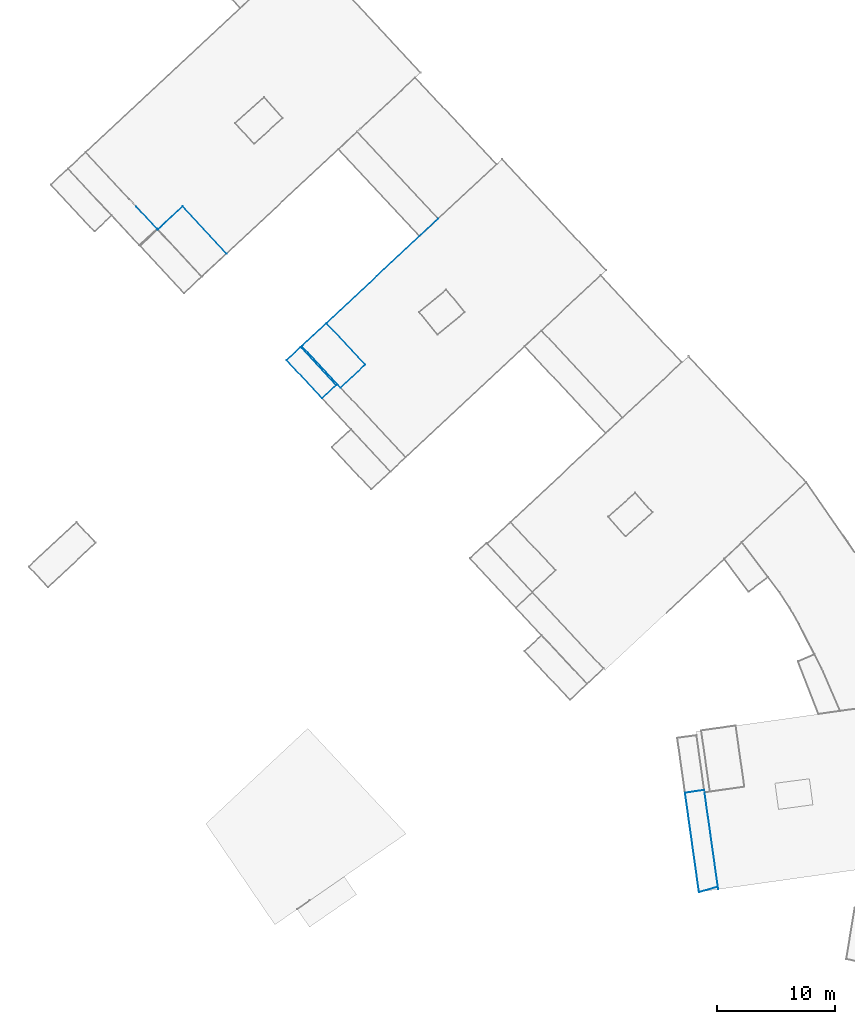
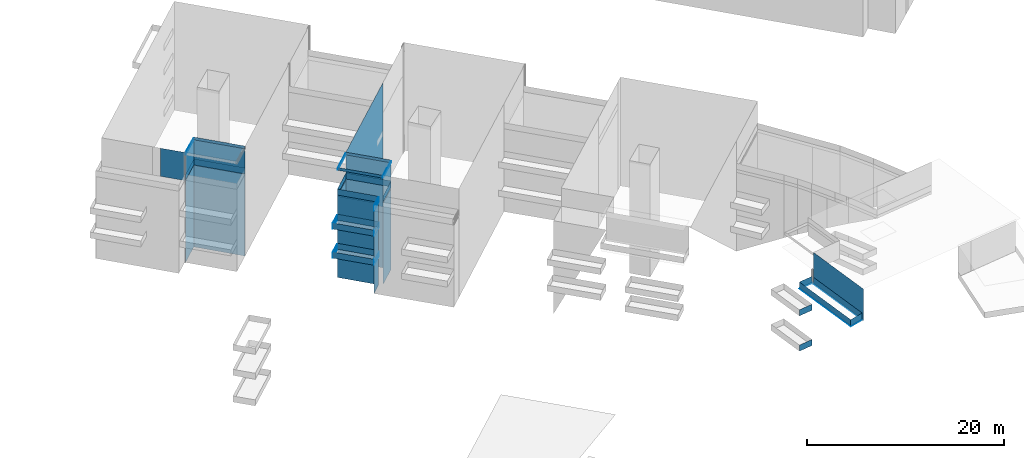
# Not in any storey, part 16 of 136: 75 walls.
"""IFC2X3 building model written with IfcOpenShell, lengths in metres."""

from ifc_helpers import new_model, entity, si_unit, converted_unit, origin, place, context, subcontext, project, spatial, face_set, surface_model, element, save


model = new_model("IFC2X3")

# Units and contexts
model_context = context("Model", 3, precision=1e-05, world=origin())
body_context = subcontext(model_context, "Body", "Model", "MODEL_VIEW")
ifc_project = project(units=[converted_unit("PLANEANGLEUNIT", "DEGREE", entity("IfcRatioMeasure", 0.0174532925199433), si_unit("PLANEANGLEUNIT", "RADIAN"), dimensions=[0, 0, 0, 0, 0, 0, 0]), si_unit("AREAUNIT", "SQUARE_METRE"), si_unit("LENGTHUNIT", "METRE")], contexts=[model_context])

# Site, building
site_placement = place(None, origin())
site = spatial("IfcSite", under=ifc_project, at=site_placement, Name="_site", CompositionType="ELEMENT")
building_1_placement = place(site_placement, origin())
building_1 = spatial("IfcBuilding", under=site, at=building_1_placement, Name="_building", CompositionType="ELEMENT")

# Walls
wall_1_placement = place(building_1_placement, origin())
element("IfcWall", 1, at=wall_1_placement, inside=building_1, Name="Wall", context=body_context, shape_type="SurfaceModel", body=[
    surface_model("IfcFaceBasedSurfaceModel", [(158.5, -56.03, 40.37), (156.88, -56.26, 40.37), (156.88, -56.26, 41.12), (158.5, -56.03, 41.12)], [face_set([[[0, 1, 2, 3]]])]),
])
wall_2_placement = place(building_1_placement, origin())
element("IfcWall", 2, at=wall_2_placement, inside=building_1, Name="Wall", context=body_context, shape_type="SurfaceModel", body=[
    surface_model("IfcFaceBasedSurfaceModel", [(158.5, -56.03, 44.74), (156.88, -56.26, 44.74), (156.88, -56.26, 45.49), (158.5, -56.03, 45.49)], [face_set([[[0, 1, 2, 3]]])]),
])
wall_3_placement = place(building_1_placement, origin())
element("IfcWall", 3, at=wall_3_placement, inside=building_1, Name="Wall", context=body_context, shape_type="SurfaceModel", body=[
    surface_model("IfcFaceBasedSurfaceModel", [(124.45, -18.64, 48.26), (126.62, -16.62, 48.26), (126.62, -16.62, 38.067), (124.45, -18.64, 38.059)], [face_set([[[0, 1, 2, 3]]])]),
])
wall_4_placement = place(building_1_placement, origin())
element("IfcWall", 4, at=wall_4_placement, inside=building_1, Name="Wall", context=body_context, shape_type="SurfaceModel", body=[
    surface_model("IfcFaceBasedSurfaceModel", [(127.44, -21.86, 48.26), (124.45, -18.64, 48.26), (124.45, -18.64, 38.059), (127.44, -21.86, 38.046)], [face_set([[[0, 1, 2, 3]]])]),
])
wall_5_placement = place(building_1_placement, origin())
element("IfcWall", 5, at=wall_5_placement, inside=building_1, Name="Wall", context=body_context, shape_type="SurfaceModel", body=[
    surface_model("IfcFaceBasedSurfaceModel", [(126.26, -22.96, 48.26), (127.44, -21.86, 48.26), (127.44, -21.86, 38.046), (126.26, -22.96, 38.037)], [face_set([[[0, 1, 2, 3]]])]),
])
wall_6_placement = place(building_1_placement, origin())
element("IfcWall", 6, at=wall_6_placement, inside=building_1, Name="Wall", context=body_context, shape_type="SurfaceModel", body=[
    surface_model("IfcFaceBasedSurfaceModel", [(124.45, -18.64, 48.11), (126.62, -16.62, 48.11), (126.62, -16.62, 38.067), (124.45, -18.64, 38.059)], [face_set([[[0, 1, 2, 3]]])]),
])
wall_7_placement = place(building_1_placement, origin())
element("IfcWall", 7, at=wall_7_placement, inside=building_1, Name="Wall", context=body_context, shape_type="SurfaceModel", body=[
    surface_model("IfcFaceBasedSurfaceModel", [(127.44, -21.86, 48.11), (124.45, -18.64, 48.11), (124.45, -18.64, 38.059), (127.44, -21.86, 38.046)], [face_set([[[0, 1, 2, 3]]])]),
])
wall_8_placement = place(building_1_placement, origin())
element("IfcWall", 8, at=wall_8_placement, inside=building_1, Name="Wall", context=body_context, shape_type="SurfaceModel", body=[
    surface_model("IfcFaceBasedSurfaceModel", [(126.26, -22.96, 48.11), (127.44, -21.86, 48.11), (127.44, -21.86, 38.046), (126.26, -22.96, 38.037)], [face_set([[[0, 1, 2, 3]]])]),
])
wall_9_placement = place(building_1_placement, origin())
element("IfcWall", 9, at=wall_9_placement, inside=building_1, Name="Wall", context=body_context, shape_type="SurfaceModel", body=[
    surface_model("IfcFaceBasedSurfaceModel", [(126.62, -16.62, 51.59), (136.06, -7.81, 51.59), (136.06, -7.81, 38.131), (126.62, -16.62, 38.067)], [face_set([[[0, 1, 2, 3]]])]),
])
wall_10_placement = place(building_1_placement, origin())
element("IfcWall", 10, at=wall_10_placement, inside=building_1, Name="Wall", context=body_context, shape_type="SurfaceModel", body=[
    surface_model("IfcFaceBasedSurfaceModel", [(156.88, -56.26, 48.2), (158.5, -56.03, 48.2), (158.5, -56.03, 48.95), (156.88, -56.26, 48.95)], [face_set([[[0, 1, 2, 3]]])]),
])
wall_11_placement = place(building_1_placement, origin())
element("IfcWall", 11, at=wall_11_placement, inside=building_1, Name="Wall", context=body_context, shape_type="SurfaceModel", body=[
    surface_model("IfcFaceBasedSurfaceModel", [(158.06, -64.64, 48.2), (156.88, -56.26, 48.2), (156.88, -56.26, 48.95), (158.06, -64.64, 48.95)], [face_set([[[0, 1, 2, 3]]])]),
])
wall_12_placement = place(building_1_placement, origin())
element("IfcWall", 12, at=wall_12_placement, inside=building_1, Name="Wall", context=body_context, shape_type="SurfaceModel", body=[
    surface_model("IfcFaceBasedSurfaceModel", [(156.88, -56.26, 48.2), (158.5, -56.03, 48.2), (158.5, -56.03, 48.95), (156.88, -56.26, 48.95)], [face_set([[[0, 1, 2, 3]]])]),
])
wall_13_placement = place(building_1_placement, origin())
element("IfcWall", 13, at=wall_13_placement, inside=building_1, Name="Wall", context=body_context, shape_type="SurfaceModel", body=[
    surface_model("IfcFaceBasedSurfaceModel", [(158.06, -64.64, 48.2), (156.88, -56.26, 48.2), (156.88, -56.26, 48.95), (158.06, -64.64, 48.95)], [face_set([[[0, 1, 2, 3]]])]),
])
wall_14_placement = place(building_1_placement, origin())
element("IfcWall", 14, at=wall_14_placement, inside=building_1, Name="Wall", context=body_context, shape_type="SurfaceModel", body=[
    surface_model("IfcFaceBasedSurfaceModel", [(123.26, -19.75, 41.54), (124.45, -18.64, 41.54), (124.45, -18.64, 42.29), (123.26, -19.75, 42.29)], [face_set([[[0, 1, 2, 3]]])]),
])
wall_15_placement = place(building_1_placement, origin())
element("IfcWall", 15, at=wall_15_placement, inside=building_1, Name="Wall", context=body_context, shape_type="SurfaceModel", body=[
    surface_model("IfcFaceBasedSurfaceModel", [(126.26, -22.96, 41.54), (123.26, -19.75, 41.54), (123.26, -19.75, 42.29), (126.26, -22.96, 42.29)], [face_set([[[0, 1, 2, 3]]])]),
])
wall_16_placement = place(building_1_placement, origin())
element("IfcWall", 16, at=wall_16_placement, inside=building_1, Name="Wall", context=body_context, shape_type="SurfaceModel", body=[
    surface_model("IfcFaceBasedSurfaceModel", [(123.26, -19.75, 41.54), (124.45, -18.64, 41.54), (124.45, -18.64, 42.29), (123.26, -19.75, 42.29)], [face_set([[[0, 1, 2, 3]]])]),
])
wall_17_placement = place(building_1_placement, origin())
element("IfcWall", 17, at=wall_17_placement, inside=building_1, Name="Wall", context=body_context, shape_type="SurfaceModel", body=[
    surface_model("IfcFaceBasedSurfaceModel", [(126.26, -22.96, 41.54), (123.26, -19.75, 41.54), (123.26, -19.75, 42.29), (126.26, -22.96, 42.29)], [face_set([[[0, 1, 2, 3]]])]),
])
wall_18_placement = place(building_1_placement, origin())
element("IfcWall", 18, at=wall_18_placement, inside=building_1, Name="Wall", context=body_context, shape_type="SurfaceModel", body=[
    surface_model("IfcFaceBasedSurfaceModel", [(127.44, -21.86, 41.54), (126.26, -22.96, 41.54), (126.26, -22.96, 42.29), (127.44, -21.86, 42.29)], [face_set([[[0, 1, 2, 3]]])]),
])
wall_19_placement = place(building_1_placement, origin())
element("IfcWall", 19, at=wall_19_placement, inside=building_1, Name="Wall", context=body_context, shape_type="SurfaceModel", body=[
    surface_model("IfcFaceBasedSurfaceModel", [(124.45, -18.64, 41.54), (127.44, -21.86, 41.54), (127.44, -21.86, 42.29), (124.45, -18.64, 42.29)], [face_set([[[0, 1, 2, 3]]])]),
])
wall_20_placement = place(building_1_placement, origin())
element("IfcWall", 20, at=wall_20_placement, inside=building_1, Name="Wall", context=body_context, shape_type="SurfaceModel", body=[
    surface_model("IfcFaceBasedSurfaceModel", [(124.55, -18.56, 51.59), (126.62, -16.62, 51.59), (126.62, -16.62, 51.24), (124.55, -18.56, 51.24)], [face_set([[[0, 1, 2, 3]]])]),
])
wall_21_placement = place(building_1_placement, origin())
element("IfcWall", 21, at=wall_21_placement, inside=building_1, Name="Wall", context=body_context, shape_type="SurfaceModel", body=[
    surface_model("IfcFaceBasedSurfaceModel", [(123.26, -19.75, 45.14), (124.45, -18.64, 45.14), (124.45, -18.64, 45.89), (123.26, -19.75, 45.89)], [face_set([[[0, 1, 2, 3]]])]),
])
wall_22_placement = place(building_1_placement, origin())
element("IfcWall", 22, at=wall_22_placement, inside=building_1, Name="Wall", context=body_context, shape_type="SurfaceModel", body=[
    surface_model("IfcFaceBasedSurfaceModel", [(126.26, -22.96, 45.14), (123.26, -19.75, 45.14), (123.26, -19.75, 45.89), (126.26, -22.96, 45.89)], [face_set([[[0, 1, 2, 3]]])]),
])
wall_23_placement = place(building_1_placement, origin())
element("IfcWall", 23, at=wall_23_placement, inside=building_1, Name="Wall", context=body_context, shape_type="SurfaceModel", body=[
    surface_model("IfcFaceBasedSurfaceModel", [(123.26, -19.75, 45.14), (124.45, -18.64, 45.14), (124.45, -18.64, 45.89), (123.26, -19.75, 45.89)], [face_set([[[0, 1, 2, 3]]])]),
])
wall_24_placement = place(building_1_placement, origin())
element("IfcWall", 24, at=wall_24_placement, inside=building_1, Name="Wall", context=body_context, shape_type="SurfaceModel", body=[
    surface_model("IfcFaceBasedSurfaceModel", [(126.26, -22.96, 45.14), (123.26, -19.75, 45.14), (123.26, -19.75, 45.89), (126.26, -22.96, 45.89)], [face_set([[[0, 1, 2, 3]]])]),
])
wall_25_placement = place(building_1_placement, origin())
element("IfcWall", 25, at=wall_25_placement, inside=building_1, Name="Wall", context=body_context, shape_type="SurfaceModel", body=[
    surface_model("IfcFaceBasedSurfaceModel", [(127.44, -21.86, 45.14), (126.26, -22.96, 45.14), (126.26, -22.96, 45.89), (127.44, -21.86, 45.89)], [face_set([[[0, 1, 2, 3]]])]),
])
wall_26_placement = place(building_1_placement, origin())
element("IfcWall", 26, at=wall_26_placement, inside=building_1, Name="Wall", context=body_context, shape_type="SurfaceModel", body=[
    surface_model("IfcFaceBasedSurfaceModel", [(124.45, -18.64, 45.14), (127.44, -21.86, 45.14), (127.44, -21.86, 45.89), (124.45, -18.64, 45.89)], [face_set([[[0, 1, 2, 3]]])]),
])
wall_27_placement = place(building_1_placement, origin())
element("IfcWall", 27, at=wall_27_placement, inside=building_1, Name="Wall", context=body_context, shape_type="SurfaceModel", body=[
    surface_model("IfcFaceBasedSurfaceModel", [(124.45, -18.64, 48.26), (126.62, -16.62, 48.26), (126.62, -16.62, 49.01), (124.45, -18.64, 49.01)], [face_set([[[0, 1, 2, 3]]])]),
])
wall_28_placement = place(building_1_placement, origin())
element("IfcWall", 28, at=wall_28_placement, inside=building_1, Name="Wall", context=body_context, shape_type="SurfaceModel", body=[
    surface_model("IfcFaceBasedSurfaceModel", [(127.44, -21.86, 48.26), (124.45, -18.64, 48.26), (124.45, -18.64, 49.01), (127.44, -21.86, 49.01)], [face_set([[[0, 1, 2, 3]]])]),
])
wall_29_placement = place(building_1_placement, origin())
element("IfcWall", 29, at=wall_29_placement, inside=building_1, Name="Wall", context=body_context, shape_type="SurfaceModel", body=[
    surface_model("IfcFaceBasedSurfaceModel", [(126.26, -22.96, 48.26), (127.44, -21.86, 48.26), (127.44, -21.86, 49.01), (126.26, -22.96, 49.01)], [face_set([[[0, 1, 2, 3]]])]),
])
wall_30_placement = place(building_1_placement, origin())
element("IfcWall", 30, at=wall_30_placement, inside=building_1, Name="Wall", context=body_context, shape_type="SurfaceModel", body=[
    surface_model("IfcFaceBasedSurfaceModel", [(124.45, -18.64, 48.26), (126.62, -16.62, 48.26), (126.62, -16.62, 49.01), (124.45, -18.64, 49.01)], [face_set([[[0, 1, 2, 3]]])]),
])
wall_31_placement = place(building_1_placement, origin())
element("IfcWall", 31, at=wall_31_placement, inside=building_1, Name="Wall", context=body_context, shape_type="SurfaceModel", body=[
    surface_model("IfcFaceBasedSurfaceModel", [(127.44, -21.86, 48.26), (124.45, -18.64, 48.26), (124.45, -18.64, 49.01), (127.44, -21.86, 49.01)], [face_set([[[0, 1, 2, 3]]])]),
])
wall_32_placement = place(building_1_placement, origin())
element("IfcWall", 32, at=wall_32_placement, inside=building_1, Name="Wall", context=body_context, shape_type="SurfaceModel", body=[
    surface_model("IfcFaceBasedSurfaceModel", [(126.26, -22.96, 48.26), (127.44, -21.86, 48.26), (127.44, -21.86, 49.01), (126.26, -22.96, 49.01)], [face_set([[[0, 1, 2, 3]]])]),
])
wall_33_placement = place(building_1_placement, origin())
element("IfcWall", 33, at=wall_33_placement, inside=building_1, Name="Wall", context=body_context, shape_type="SurfaceModel", body=[
    surface_model("IfcFaceBasedSurfaceModel", [(158.06, -64.64, 48.2), (156.88, -56.26, 48.2), (156.88, -56.26, 48.1), (158.06, -64.64, 48.1)], [face_set([[[0, 1, 2, 3]]])]),
])
wall_34_placement = place(building_1_placement, origin())
element("IfcWall", 34, at=wall_34_placement, inside=building_1, Name="Wall", context=body_context, shape_type="SurfaceModel", body=[
    surface_model("IfcFaceBasedSurfaceModel", [(156.88, -56.26, 48.2), (158.5, -56.03, 48.2), (158.5, -56.03, 48.1), (156.88, -56.26, 48.1)], [face_set([[[0, 1, 2, 3]]])]),
])

# Building
building_2_placement = place(site_placement, origin())
building_2 = spatial("IfcBuilding", under=site, at=building_2_placement, Name="_building", CompositionType="ELEMENT")

# Walls
wall_35_placement = place(building_2_placement, origin())
element("IfcWall", 35, at=wall_35_placement, inside=building_2, Name="Wall", context=body_context, shape_type="SurfaceModel", body=[
    surface_model("IfcFaceBasedSurfaceModel", [(126.62, -16.62, 48.26), (129.9, -20.13, 48.26), (129.9, -20.13, 38.064), (126.62, -16.62, 38.067)], [face_set([[[0, 1, 2, 3]]])]),
])
wall_36_placement = place(building_2_placement, origin())
element("IfcWall", 36, at=wall_36_placement, inside=building_2, Name="Wall", context=body_context, shape_type="SurfaceModel", body=[
    surface_model("IfcFaceBasedSurfaceModel", [(129.9, -20.13, 51.59), (126.62, -16.62, 51.59), (126.62, -16.62, 48.11), (129.9, -20.13, 48.11)], [face_set([[[0, 1, 2, 3]]])]),
])
wall_37_placement = place(building_2_placement, origin())
element("IfcWall", 37, at=wall_37_placement, inside=building_2, Name="Wall", context=body_context, shape_type="SurfaceModel", body=[
    surface_model("IfcFaceBasedSurfaceModel", [(127.82, -22.06, 51.59), (129.9, -20.13, 51.59), (129.9, -20.13, 48.11), (127.82, -22.06, 48.11)], [face_set([[[0, 1, 2, 3]]])]),
])
wall_38_placement = place(building_2_placement, origin())
element("IfcWall", 38, at=wall_38_placement, inside=building_2, Name="Wall", context=body_context, shape_type="SurfaceModel", body=[
    surface_model("IfcFaceBasedSurfaceModel", [(127.44, -21.86, 41.54), (126.26, -22.96, 41.54), (126.26, -22.96, 42.29), (127.44, -21.86, 42.29)], [face_set([[[0, 1, 2, 3]]])]),
])
wall_39_placement = place(building_2_placement, origin())
element("IfcWall", 39, at=wall_39_placement, inside=building_2, Name="Wall", context=body_context, shape_type="SurfaceModel", body=[
    surface_model("IfcFaceBasedSurfaceModel", [(124.45, -18.64, 41.54), (127.44, -21.86, 41.54), (127.44, -21.86, 42.29), (124.45, -18.64, 42.29)], [face_set([[[0, 1, 2, 3]]])]),
])
wall_40_placement = place(building_2_placement, origin())
element("IfcWall", 40, at=wall_40_placement, inside=building_2, Name="Wall", context=body_context, shape_type="SurfaceModel", body=[
    surface_model("IfcFaceBasedSurfaceModel", [(127.82, -22.06, 51.59), (124.55, -18.56, 51.59), (124.55, -18.56, 51.24), (127.82, -22.06, 51.24)], [face_set([[[0, 1, 2, 3]]])]),
])
wall_41_placement = place(building_2_placement, origin())
element("IfcWall", 41, at=wall_41_placement, inside=building_2, Name="Wall", context=body_context, shape_type="SurfaceModel", body=[
    surface_model("IfcFaceBasedSurfaceModel", [(129.9, -20.13, 51.59), (127.82, -22.06, 51.59), (127.82, -22.06, 51.24), (129.9, -20.13, 51.24)], [face_set([[[0, 1, 2, 3]]])]),
])
wall_42_placement = place(building_2_placement, origin())
element("IfcWall", 42, at=wall_42_placement, inside=building_2, Name="Wall", context=body_context, shape_type="SurfaceModel", body=[
    surface_model("IfcFaceBasedSurfaceModel", [(126.62, -16.62, 51.59), (129.9, -20.13, 51.59), (129.9, -20.13, 51.24), (126.62, -16.62, 51.24)], [face_set([[[0, 1, 2, 3]]])]),
])
wall_43_placement = place(building_2_placement, origin())
element("IfcWall", 43, at=wall_43_placement, inside=building_2, Name="Wall", context=body_context, shape_type="SurfaceModel", body=[
    surface_model("IfcFaceBasedSurfaceModel", [(124.55, -18.56, 51.59), (126.62, -16.62, 51.59), (126.62, -16.62, 51.24), (124.55, -18.56, 51.24)], [face_set([[[0, 1, 2, 3]]])]),
])
wall_44_placement = place(building_2_placement, origin())
element("IfcWall", 44, at=wall_44_placement, inside=building_2, Name="Wall", context=body_context, shape_type="SurfaceModel", body=[
    surface_model("IfcFaceBasedSurfaceModel", [(127.82, -22.06, 51.59), (124.55, -18.56, 51.59), (124.55, -18.56, 51.24), (127.82, -22.06, 51.24)], [face_set([[[0, 1, 2, 3]]])]),
])
wall_45_placement = place(building_2_placement, origin())
element("IfcWall", 45, at=wall_45_placement, inside=building_2, Name="Wall", context=body_context, shape_type="SurfaceModel", body=[
    surface_model("IfcFaceBasedSurfaceModel", [(127.44, -21.86, 45.14), (126.26, -22.96, 45.14), (126.26, -22.96, 45.89), (127.44, -21.86, 45.89)], [face_set([[[0, 1, 2, 3]]])]),
])
wall_46_placement = place(building_2_placement, origin())
element("IfcWall", 46, at=wall_46_placement, inside=building_2, Name="Wall", context=body_context, shape_type="SurfaceModel", body=[
    surface_model("IfcFaceBasedSurfaceModel", [(124.45, -18.64, 45.14), (127.44, -21.86, 45.14), (127.44, -21.86, 45.89), (124.45, -18.64, 45.89)], [face_set([[[0, 1, 2, 3]]])]),
])
wall_47_placement = place(building_2_placement, origin())
element("IfcWall", 47, at=wall_47_placement, inside=building_2, Name="Wall", context=body_context, shape_type="SurfaceModel", body=[
    surface_model("IfcFaceBasedSurfaceModel", [(129.9, -20.13, 51.59), (127.82, -22.06, 51.59), (127.82, -22.06, 51.24), (129.9, -20.13, 51.24)], [face_set([[[0, 1, 2, 3]]])]),
])
wall_48_placement = place(building_2_placement, origin())
element("IfcWall", 48, at=wall_48_placement, inside=building_2, Name="Wall", context=body_context, shape_type="SurfaceModel", body=[
    surface_model("IfcFaceBasedSurfaceModel", [(126.62, -16.62, 51.59), (129.9, -20.13, 51.59), (129.9, -20.13, 51.24), (126.62, -16.62, 51.24)], [face_set([[[0, 1, 2, 3]]])]),
])
wall_49_placement = place(building_2_placement, origin())
element("IfcWall", 49, at=wall_49_placement, inside=building_2, Name="Wall", context=body_context, shape_type="SurfaceModel", body=[
    surface_model("IfcFaceBasedSurfaceModel", [(129.9, -20.13, 48.26), (127.82, -22.06, 48.26), (127.82, -22.06, 38.048), (129.9, -20.13, 38.064)], [face_set([[[0, 1, 2, 3]]])]),
])
wall_50_placement = place(building_2_placement, origin())
element("IfcWall", 50, at=wall_50_placement, inside=building_2, Name="Wall", context=body_context, shape_type="SurfaceModel", body=[
    surface_model("IfcFaceBasedSurfaceModel", [(129.9, -20.13, 48.26), (127.82, -22.06, 48.26), (127.82, -22.06, 49.01), (129.9, -20.13, 49.01)], [face_set([[[0, 1, 2, 3]]])]),
])
wall_51_placement = place(building_2_placement, origin())
element("IfcWall", 51, at=wall_51_placement, inside=building_2, Name="Wall", context=body_context, shape_type="SurfaceModel", body=[
    surface_model("IfcFaceBasedSurfaceModel", [(126.62, -16.62, 48.26), (129.9, -20.13, 48.26), (129.9, -20.13, 49.01), (126.62, -16.62, 49.01)], [face_set([[[0, 1, 2, 3]]])]),
])
wall_52_placement = place(building_2_placement, origin())
element("IfcWall", 52, at=wall_52_placement, inside=building_2, Name="Wall", context=body_context, shape_type="SurfaceModel", body=[
    surface_model("IfcFaceBasedSurfaceModel", [(129.9, -20.13, 48.26), (127.82, -22.06, 48.26), (127.82, -22.06, 49.01), (129.9, -20.13, 49.01)], [face_set([[[0, 1, 2, 3]]])]),
])
wall_53_placement = place(building_2_placement, origin())
element("IfcWall", 53, at=wall_53_placement, inside=building_2, Name="Wall", context=body_context, shape_type="SurfaceModel", body=[
    surface_model("IfcFaceBasedSurfaceModel", [(126.62, -16.62, 48.26), (129.9, -20.13, 48.26), (129.9, -20.13, 49.01), (126.62, -16.62, 49.01)], [face_set([[[0, 1, 2, 3]]])]),
])

# Building
building_3_placement = place(site_placement, origin())
building_3 = spatial("IfcBuilding", under=site, at=building_3_placement, Name="_building", CompositionType="ELEMENT")

# Walls
wall_54_placement = place(building_3_placement, origin())
element("IfcWall", 54, at=wall_54_placement, inside=building_3, Name="Wall", context=body_context, shape_type="SurfaceModel", body=[
    surface_model("IfcFaceBasedSurfaceModel", [(112.38, -8.729, 48.29), (114.48, -6.77, 48.29), (114.48, -6.77, 49.04), (112.38, -8.729, 49.04)], [face_set([[[0, 1, 2, 3]]])]),
])
wall_55_placement = place(building_3_placement, origin())
element("IfcWall", 55, at=wall_55_placement, inside=building_3, Name="Wall", context=body_context, shape_type="SurfaceModel", body=[
    surface_model("IfcFaceBasedSurfaceModel", [(114.48, -6.77, 48.29), (118.19, -10.75, 48.29), (118.19, -10.75, 49.04), (114.48, -6.77, 49.04)], [face_set([[[0, 1, 2, 3]]])]),
])
wall_56_placement = place(building_3_placement, origin())
element("IfcWall", 56, at=wall_56_placement, inside=building_3, Name="Wall", context=body_context, shape_type="SurfaceModel", body=[
    surface_model("IfcFaceBasedSurfaceModel", [(112.38, -8.729, 48.29), (114.48, -6.77, 48.29), (114.48, -6.77, 49.04), (112.38, -8.729, 49.04)], [face_set([[[0, 1, 2, 3]]])]),
])
wall_57_placement = place(building_3_placement, origin())
element("IfcWall", 57, at=wall_57_placement, inside=building_3, Name="Wall", context=body_context, shape_type="SurfaceModel", body=[
    surface_model("IfcFaceBasedSurfaceModel", [(114.48, -6.77, 48.29), (118.19, -10.75, 48.29), (118.19, -10.75, 49.04), (114.48, -6.77, 49.04)], [face_set([[[0, 1, 2, 3]]])]),
])
wall_58_placement = place(building_3_placement, origin())
element("IfcWall", 58, at=wall_58_placement, inside=building_3, Name="Wall", context=body_context, shape_type="SurfaceModel", body=[
    surface_model("IfcFaceBasedSurfaceModel", [(114.48, -6.77, 51.74), (112.38, -8.729, 51.74), (112.38, -8.729, 48.25), (114.48, -6.77, 48.25)], [face_set([[[0, 1, 2, 3]]])]),
])
wall_59_placement = place(building_3_placement, origin())
element("IfcWall", 59, at=wall_59_placement, inside=building_3, Name="Wall", context=body_context, shape_type="SurfaceModel", body=[
    surface_model("IfcFaceBasedSurfaceModel", [(118.19, -10.75, 51.74), (114.48, -6.77, 51.74), (114.48, -6.77, 48.25), (118.19, -10.75, 48.25)], [face_set([[[0, 1, 2, 3]]])]),
])
wall_60_placement = place(building_3_placement, origin())
element("IfcWall", 60, at=wall_60_placement, inside=building_3, Name="Wall", context=body_context, shape_type="SurfaceModel", body=[
    surface_model("IfcFaceBasedSurfaceModel", [(112.32, -8.66, 51.74), (110.57, -6.79, 51.74), (110.57, -6.79, 48.25), (112.32, -8.66, 48.25)], [face_set([[[0, 1, 2, 3]]])]),
])
wall_61_placement = place(building_3_placement, origin())
element("IfcWall", 61, at=wall_61_placement, inside=building_3, Name="Wall", context=body_context, shape_type="SurfaceModel", body=[
    surface_model("IfcFaceBasedSurfaceModel", [(112.38, -8.729, 48.29), (114.48, -6.77, 48.29), (114.48, -6.77, 38.127), (112.38, -8.729, 38.12)], [face_set([[[0, 1, 2, 3]]])]),
])
wall_62_placement = place(building_3_placement, origin())
element("IfcWall", 62, at=wall_62_placement, inside=building_3, Name="Wall", context=body_context, shape_type="SurfaceModel", body=[
    surface_model("IfcFaceBasedSurfaceModel", [(112.4, -8.71, 51.74), (114.48, -6.77, 51.74), (114.48, -6.77, 51.39), (112.4, -8.71, 51.39)], [face_set([[[0, 1, 2, 3]]])]),
])
wall_63_placement = place(building_3_placement, origin())
element("IfcWall", 63, at=wall_63_placement, inside=building_3, Name="Wall", context=body_context, shape_type="SurfaceModel", body=[
    surface_model("IfcFaceBasedSurfaceModel", [(114.48, -6.77, 51.74), (118.19, -10.75, 51.74), (118.19, -10.75, 51.39), (114.48, -6.77, 51.39)], [face_set([[[0, 1, 2, 3]]])]),
])
wall_64_placement = place(building_3_placement, origin())
element("IfcWall", 64, at=wall_64_placement, inside=building_3, Name="Wall", context=body_context, shape_type="SurfaceModel", body=[
    surface_model("IfcFaceBasedSurfaceModel", [(112.4, -8.71, 51.74), (114.48, -6.77, 51.74), (114.48, -6.77, 51.39), (112.4, -8.71, 51.39)], [face_set([[[0, 1, 2, 3]]])]),
])
wall_65_placement = place(building_3_placement, origin())
element("IfcWall", 65, at=wall_65_placement, inside=building_3, Name="Wall", context=body_context, shape_type="SurfaceModel", body=[
    surface_model("IfcFaceBasedSurfaceModel", [(114.48, -6.77, 51.74), (118.19, -10.75, 51.74), (118.19, -10.75, 51.39), (114.48, -6.77, 51.39)], [face_set([[[0, 1, 2, 3]]])]),
])
wall_66_placement = place(building_3_placement, origin())
element("IfcWall", 66, at=wall_66_placement, inside=building_3, Name="Wall", context=body_context, shape_type="SurfaceModel", body=[
    surface_model("IfcFaceBasedSurfaceModel", [(114.48, -6.77, 48.29), (118.19, -10.75, 48.29), (118.19, -10.75, 38.104), (114.48, -6.77, 38.127)], [face_set([[[0, 1, 2, 3]]])]),
])

# Building
building_4_placement = place(site_placement, origin())
building_4 = spatial("IfcBuilding", under=site, at=building_4_placement, Name="_building", CompositionType="ELEMENT")

# Walls
wall_67_placement = place(building_4_placement, origin())
element("IfcWall", 67, at=wall_67_placement, inside=building_4, Name="Wall", context=body_context, shape_type="SurfaceModel", body=[
    surface_model("IfcFaceBasedSurfaceModel", [(158.5, -56.03, 40.37), (156.88, -56.26, 40.37), (156.88, -56.26, 41.12), (158.5, -56.03, 41.12)], [face_set([[[0, 1, 2, 3]]])]),
])
wall_68_placement = place(building_4_placement, origin())
element("IfcWall", 68, at=wall_68_placement, inside=building_4, Name="Wall", context=body_context, shape_type="SurfaceModel", body=[
    surface_model("IfcFaceBasedSurfaceModel", [(158.5, -56.03, 44.74), (156.88, -56.26, 44.74), (156.88, -56.26, 45.49), (158.5, -56.03, 45.49)], [face_set([[[0, 1, 2, 3]]])]),
])
wall_69_placement = place(building_4_placement, origin())
element("IfcWall", 69, at=wall_69_placement, inside=building_4, Name="Wall", context=body_context, shape_type="SurfaceModel", body=[
    surface_model("IfcFaceBasedSurfaceModel", [(158.53, -56.24, 48.2), (159.65, -64.2, 48.2), (159.65, -64.2, 48.1), (158.53, -56.24, 48.1)], [face_set([[[0, 1, 2, 3]]])]),
])
wall_70_placement = place(building_4_placement, origin())
element("IfcWall", 70, at=wall_70_placement, inside=building_4, Name="Wall", context=body_context, shape_type="SurfaceModel", body=[
    surface_model("IfcFaceBasedSurfaceModel", [(159.68, -64.41, 52.04), (158.53, -56.24, 52.04), (158.53, -56.24, 48.1), (159.68, -64.41, 48.1)], [face_set([[[0, 1, 2, 3]]])]),
])
wall_71_placement = place(building_4_placement, origin())
element("IfcWall", 71, at=wall_71_placement, inside=building_4, Name="Wall", context=body_context, shape_type="SurfaceModel", body=[
    surface_model("IfcFaceBasedSurfaceModel", [(159.65, -64.2, 48.2), (158.06, -64.64, 48.2), (158.06, -64.64, 48.95), (159.65, -64.2, 48.95)], [face_set([[[0, 1, 2, 3]]])]),
])
wall_72_placement = place(building_4_placement, origin())
element("IfcWall", 72, at=wall_72_placement, inside=building_4, Name="Wall", context=body_context, shape_type="SurfaceModel", body=[
    surface_model("IfcFaceBasedSurfaceModel", [(158.53, -56.24, 48.2), (159.65, -64.2, 48.2), (159.65, -64.2, 48.95), (158.53, -56.24, 48.95)], [face_set([[[0, 1, 2, 3]]])]),
])
wall_73_placement = place(building_4_placement, origin())
element("IfcWall", 73, at=wall_73_placement, inside=building_4, Name="Wall", context=body_context, shape_type="SurfaceModel", body=[
    surface_model("IfcFaceBasedSurfaceModel", [(159.65, -64.2, 48.2), (158.06, -64.64, 48.2), (158.06, -64.64, 48.95), (159.65, -64.2, 48.95)], [face_set([[[0, 1, 2, 3]]])]),
])
wall_74_placement = place(building_4_placement, origin())
element("IfcWall", 74, at=wall_74_placement, inside=building_4, Name="Wall", context=body_context, shape_type="SurfaceModel", body=[
    surface_model("IfcFaceBasedSurfaceModel", [(158.53, -56.24, 48.2), (159.65, -64.2, 48.2), (159.65, -64.2, 48.95), (158.53, -56.24, 48.95)], [face_set([[[0, 1, 2, 3]]])]),
])
wall_75_placement = place(building_4_placement, origin())
element("IfcWall", 75, at=wall_75_placement, inside=building_4, Name="Wall", context=body_context, shape_type="SurfaceModel", body=[
    surface_model("IfcFaceBasedSurfaceModel", [(159.65, -64.2, 48.2), (158.06, -64.64, 48.2), (158.06, -64.64, 48.1), (159.65, -64.2, 48.1)], [face_set([[[0, 1, 2, 3]]])]),
])

save(model, "model.ifc")
